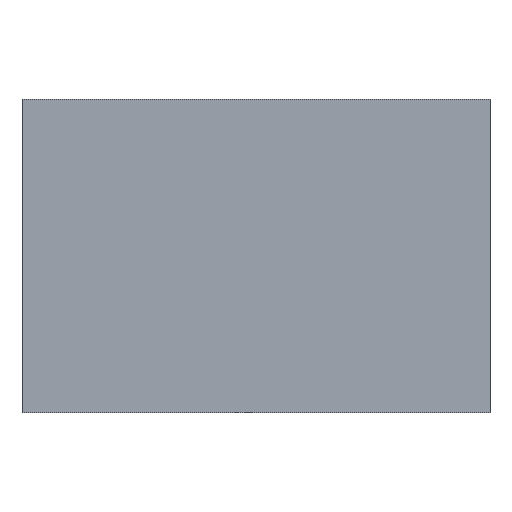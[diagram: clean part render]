
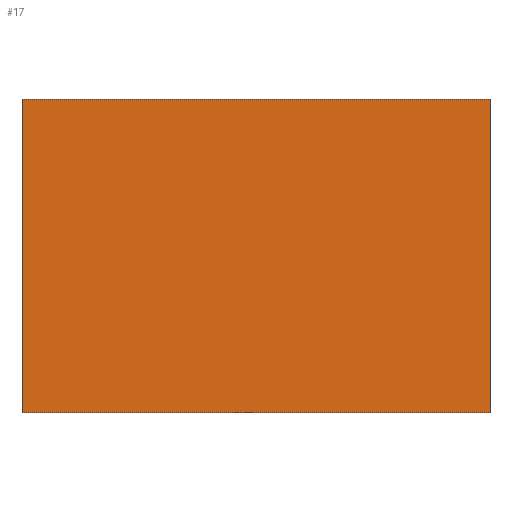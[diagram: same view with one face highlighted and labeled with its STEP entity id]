
A CAD part, left-side view. The second image highlights one B-rep face of the part: STEP entity #17.
In plain terms, the highlighted planar face has unit normal (-1, 0, 0).
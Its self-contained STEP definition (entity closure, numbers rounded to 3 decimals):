
#17 = ADVANCED_FACE('',(#18),#32,.F.);
#18 = FACE_BOUND('',#19,.F.);
#19 = EDGE_LOOP('',(#20,#55,#83,#111));
#20 = ORIENTED_EDGE('',*,*,#21,.F.);
#21 = EDGE_CURVE('',#22,#24,#26,.T.);
#22 = VERTEX_POINT('',#23);
#23 = CARTESIAN_POINT('',(0.,0.,0.));
#24 = VERTEX_POINT('',#25);
#25 = CARTESIAN_POINT('',(0.,0.,131.762));
#26 = SURFACE_CURVE('',#27,(#31,#43),.PCURVE_S1.);
#27 = LINE('',#28,#29);
#28 = CARTESIAN_POINT('',(0.,0.,0.));
#29 = VECTOR('',#30,1.);
#30 = DIRECTION('',(0.,0.,1.));
#31 = PCURVE('',#32,#37);
#32 = PLANE('',#33);
#33 = AXIS2_PLACEMENT_3D('',#34,#35,#36);
#34 = CARTESIAN_POINT('',(0.,0.,0.));
#35 = DIRECTION('',(1.,0.,0.));
#36 = DIRECTION('',(0.,0.,1.));
#37 = DEFINITIONAL_REPRESENTATION('',(#38),#42);
#38 = LINE('',#39,#40);
#39 = CARTESIAN_POINT('',(0.,0.));
#40 = VECTOR('',#41,1.);
#41 = DIRECTION('',(1.,0.));
#42 = ( GEOMETRIC_REPRESENTATION_CONTEXT(2) 
PARAMETRIC_REPRESENTATION_CONTEXT() REPRESENTATION_CONTEXT('2D SPACE',''
  ) );
#43 = PCURVE('',#44,#49);
#44 = PLANE('',#45);
#45 = AXIS2_PLACEMENT_3D('',#46,#47,#48);
#46 = CARTESIAN_POINT('',(0.,0.,0.));
#47 = DIRECTION('',(0.,1.,0.));
#48 = DIRECTION('',(0.,0.,1.));
#49 = DEFINITIONAL_REPRESENTATION('',(#50),#54);
#50 = LINE('',#51,#52);
#51 = CARTESIAN_POINT('',(0.,0.));
#52 = VECTOR('',#53,1.);
#53 = DIRECTION('',(1.,0.));
#54 = ( GEOMETRIC_REPRESENTATION_CONTEXT(2) 
PARAMETRIC_REPRESENTATION_CONTEXT() REPRESENTATION_CONTEXT('2D SPACE',''
  ) );
#55 = ORIENTED_EDGE('',*,*,#56,.T.);
#56 = EDGE_CURVE('',#22,#57,#59,.T.);
#57 = VERTEX_POINT('',#58);
#58 = CARTESIAN_POINT('',(0.,196.85,0.));
#59 = SURFACE_CURVE('',#60,(#64,#71),.PCURVE_S1.);
#60 = LINE('',#61,#62);
#61 = CARTESIAN_POINT('',(0.,0.,0.));
#62 = VECTOR('',#63,1.);
#63 = DIRECTION('',(0.,1.,0.));
#64 = PCURVE('',#32,#65);
#65 = DEFINITIONAL_REPRESENTATION('',(#66),#70);
#66 = LINE('',#67,#68);
#67 = CARTESIAN_POINT('',(0.,0.));
#68 = VECTOR('',#69,1.);
#69 = DIRECTION('',(0.,-1.));
#70 = ( GEOMETRIC_REPRESENTATION_CONTEXT(2) 
PARAMETRIC_REPRESENTATION_CONTEXT() REPRESENTATION_CONTEXT('2D SPACE',''
  ) );
#71 = PCURVE('',#72,#77);
#72 = PLANE('',#73);
#73 = AXIS2_PLACEMENT_3D('',#74,#75,#76);
#74 = CARTESIAN_POINT('',(0.,0.,0.));
#75 = DIRECTION('',(0.,0.,1.));
#76 = DIRECTION('',(1.,0.,0.));
#77 = DEFINITIONAL_REPRESENTATION('',(#78),#82);
#78 = LINE('',#79,#80);
#79 = CARTESIAN_POINT('',(0.,0.));
#80 = VECTOR('',#81,1.);
#81 = DIRECTION('',(0.,1.));
#82 = ( GEOMETRIC_REPRESENTATION_CONTEXT(2) 
PARAMETRIC_REPRESENTATION_CONTEXT() REPRESENTATION_CONTEXT('2D SPACE',''
  ) );
#83 = ORIENTED_EDGE('',*,*,#84,.T.);
#84 = EDGE_CURVE('',#57,#85,#87,.T.);
#85 = VERTEX_POINT('',#86);
#86 = CARTESIAN_POINT('',(0.,196.85,131.762));
#87 = SURFACE_CURVE('',#88,(#92,#99),.PCURVE_S1.);
#88 = LINE('',#89,#90);
#89 = CARTESIAN_POINT('',(0.,196.85,0.));
#90 = VECTOR('',#91,1.);
#91 = DIRECTION('',(0.,0.,1.));
#92 = PCURVE('',#32,#93);
#93 = DEFINITIONAL_REPRESENTATION('',(#94),#98);
#94 = LINE('',#95,#96);
#95 = CARTESIAN_POINT('',(0.,-196.85));
#96 = VECTOR('',#97,1.);
#97 = DIRECTION('',(1.,0.));
#98 = ( GEOMETRIC_REPRESENTATION_CONTEXT(2) 
PARAMETRIC_REPRESENTATION_CONTEXT() REPRESENTATION_CONTEXT('2D SPACE',''
  ) );
#99 = PCURVE('',#100,#105);
#100 = PLANE('',#101);
#101 = AXIS2_PLACEMENT_3D('',#102,#103,#104);
#102 = CARTESIAN_POINT('',(0.,196.85,0.));
#103 = DIRECTION('',(0.,1.,0.));
#104 = DIRECTION('',(0.,0.,1.));
#105 = DEFINITIONAL_REPRESENTATION('',(#106),#110);
#106 = LINE('',#107,#108);
#107 = CARTESIAN_POINT('',(0.,0.));
#108 = VECTOR('',#109,1.);
#109 = DIRECTION('',(1.,0.));
#110 = ( GEOMETRIC_REPRESENTATION_CONTEXT(2) 
PARAMETRIC_REPRESENTATION_CONTEXT() REPRESENTATION_CONTEXT('2D SPACE',''
  ) );
#111 = ORIENTED_EDGE('',*,*,#112,.F.);
#112 = EDGE_CURVE('',#24,#85,#113,.T.);
#113 = SURFACE_CURVE('',#114,(#118,#125),.PCURVE_S1.);
#114 = LINE('',#115,#116);
#115 = CARTESIAN_POINT('',(0.,0.,131.762));
#116 = VECTOR('',#117,1.);
#117 = DIRECTION('',(0.,1.,0.));
#118 = PCURVE('',#32,#119);
#119 = DEFINITIONAL_REPRESENTATION('',(#120),#124);
#120 = LINE('',#121,#122);
#121 = CARTESIAN_POINT('',(131.762,0.));
#122 = VECTOR('',#123,1.);
#123 = DIRECTION('',(0.,-1.));
#124 = ( GEOMETRIC_REPRESENTATION_CONTEXT(2) 
PARAMETRIC_REPRESENTATION_CONTEXT() REPRESENTATION_CONTEXT('2D SPACE',''
  ) );
#125 = PCURVE('',#126,#131);
#126 = PLANE('',#127);
#127 = AXIS2_PLACEMENT_3D('',#128,#129,#130);
#128 = CARTESIAN_POINT('',(0.,0.,131.762));
#129 = DIRECTION('',(0.,0.,1.));
#130 = DIRECTION('',(1.,0.,0.));
#131 = DEFINITIONAL_REPRESENTATION('',(#132),#136);
#132 = LINE('',#133,#134);
#133 = CARTESIAN_POINT('',(0.,0.));
#134 = VECTOR('',#135,1.);
#135 = DIRECTION('',(0.,1.));
#136 = ( GEOMETRIC_REPRESENTATION_CONTEXT(2) 
PARAMETRIC_REPRESENTATION_CONTEXT() REPRESENTATION_CONTEXT('2D SPACE',''
  ) );
